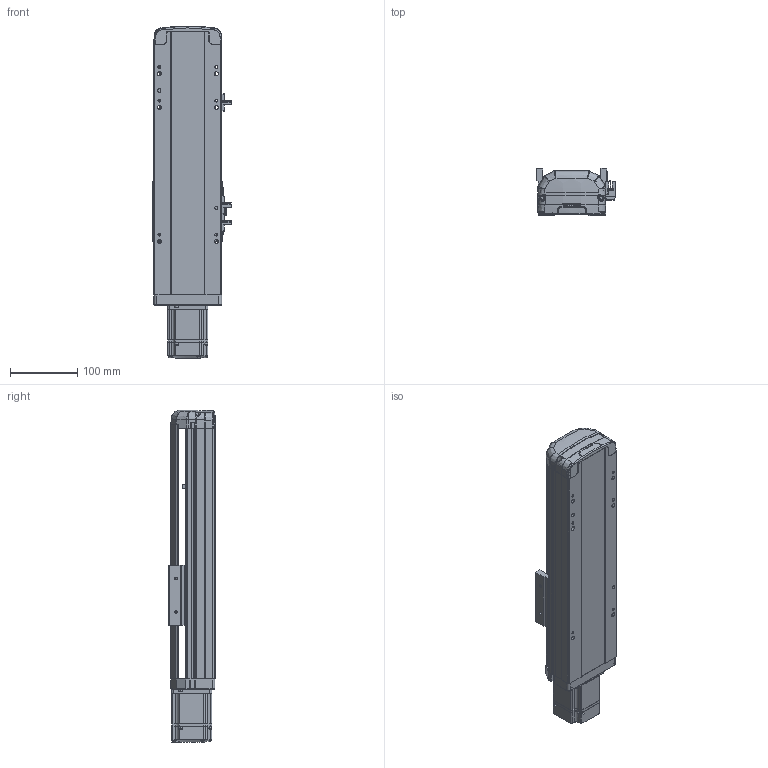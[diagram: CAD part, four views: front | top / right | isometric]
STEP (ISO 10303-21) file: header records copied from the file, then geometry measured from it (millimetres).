
FILE_DESCRIPTION (( 'STEP AP214' ), '1' );
FILE_NAME ('RTH10-XX-150-E-M20-C4.STEP', '2025-10-24T10:41:35', ( '' ), ( '' ), 'SwSTEP 2.0', 'SolidWorks 2018', '' );
FILE_SCHEMA (( 'AUTOMOTIVE_DESIGN' ));
Length unit declared in the file: millimetre
Products named in the file (9): N_RTH13-L-012感应片外置^RTH10-XX-XX-E-M20-C4（方程式）; N_RTH12-E-007P-奻裔^RTH10-XX-XX-E-M20-C4ㄗ源最宒ㄘ; N_RTH12-E-008-M20电机板^RTH10-XX-XX-E-M20-C4（方程式）; RTH10-XX-150-E-M20-C4; N_OMRON EE-SX672 換覜ん^RTH10-XX-XX-E-M20-C4ㄗ源最宒ㄘ; N_RTH12-E-011P-臏倰第菁釱^RTH10-XX-XX-E-M20-C4ㄗ源最宒ㄘ; N_RTH12-GY-001P^RTH10-XX-XX-E-M20-C4（方程式）; N_200W-1^RTH10-XX-XX-E-M20-C4（方程式）; N_RTH12-GY-004-滑座^RTH10-XX-XX-E-M20-C4（方程式）
Assembly tree (10 placements, depth 2):
  RTH10-XX-150-E-M20-C4
    N_RTH12-E-011P-臏倰第菁釱^RTH10-XX-XX-E-M20-C4ㄗ源最宒ㄘ
    N_RTH13-L-012感应片外置^RTH10-XX-XX-E-M20-C4（方程式）
    N_OMRON EE-SX672 換覜ん^RTH10-XX-XX-E-M20-C4ㄗ源最宒ㄘ  x3
    N_RTH12-E-007P-奻裔^RTH10-XX-XX-E-M20-C4ㄗ源最宒ㄘ
    N_RTH12-GY-001P^RTH10-XX-XX-E-M20-C4（方程式）
    N_RTH12-GY-004-滑座^RTH10-XX-XX-E-M20-C4（方程式）
    N_200W-1^RTH10-XX-XX-E-M20-C4（方程式）
    N_RTH12-E-008-M20电机板^RTH10-XX-XX-E-M20-C4（方程式）
Bounding box: 116.5 x 70 x 495.31 mm (x, y, z)
Volume: 1967761 mm3; surface area: 330710.5 mm2
Topology: 9 solids, 11 shells, 1968 faces, 5452 edges, 3578 vertices
Faces by surface type: plane 1000, bspline 472, cylinder 461, cone 33, torus 2
Entity records: 58798 total; most frequent: CARTESIAN_POINT 23098, ORIENTED_EDGE 7984, DIRECTION 6168, EDGE_CURVE 3998, VERTEX_POINT 2622, LINE 2176, VECTOR 2176, AXIS2_PLACEMENT_3D 1996
